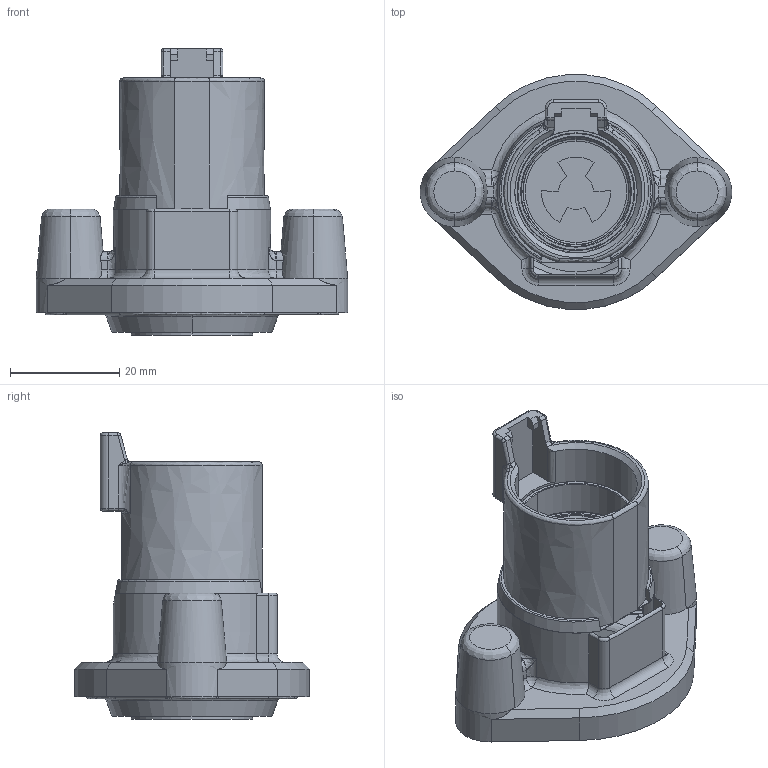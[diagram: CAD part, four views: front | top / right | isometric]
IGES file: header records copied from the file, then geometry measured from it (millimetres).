
Start section:  PTC IGES file: c-dthd04-1-4p-l013-99-3d.igs
Global section: file name: c-dthd04-1-4p-l013-99-3d.igs; native system: Pro/ENGINEER by Parametric Technology Corporation; preprocessor: 2011490; author: workeradm; organization: Unknown; units: millimetre
Bounding box: 57.15 x 43.03 x 52.53 mm (x, y, z)
Surface area: 11426 mm2 (no closed solid volume)
Topology: 0 solids, 0 shells, 319 faces, 1516 edges, 1516 vertices
Faces by surface type: revolution 209, bspline 110
